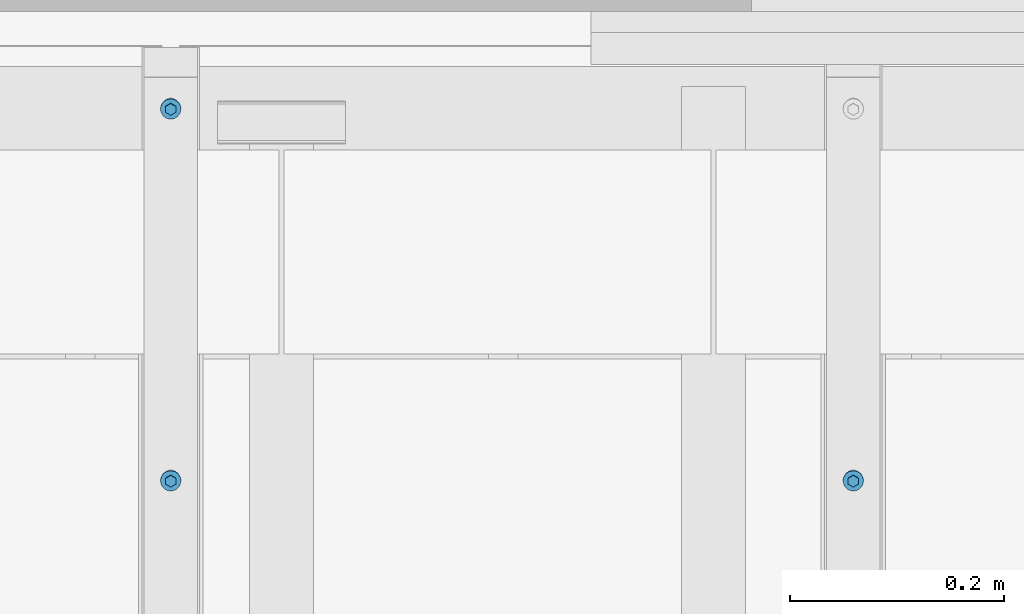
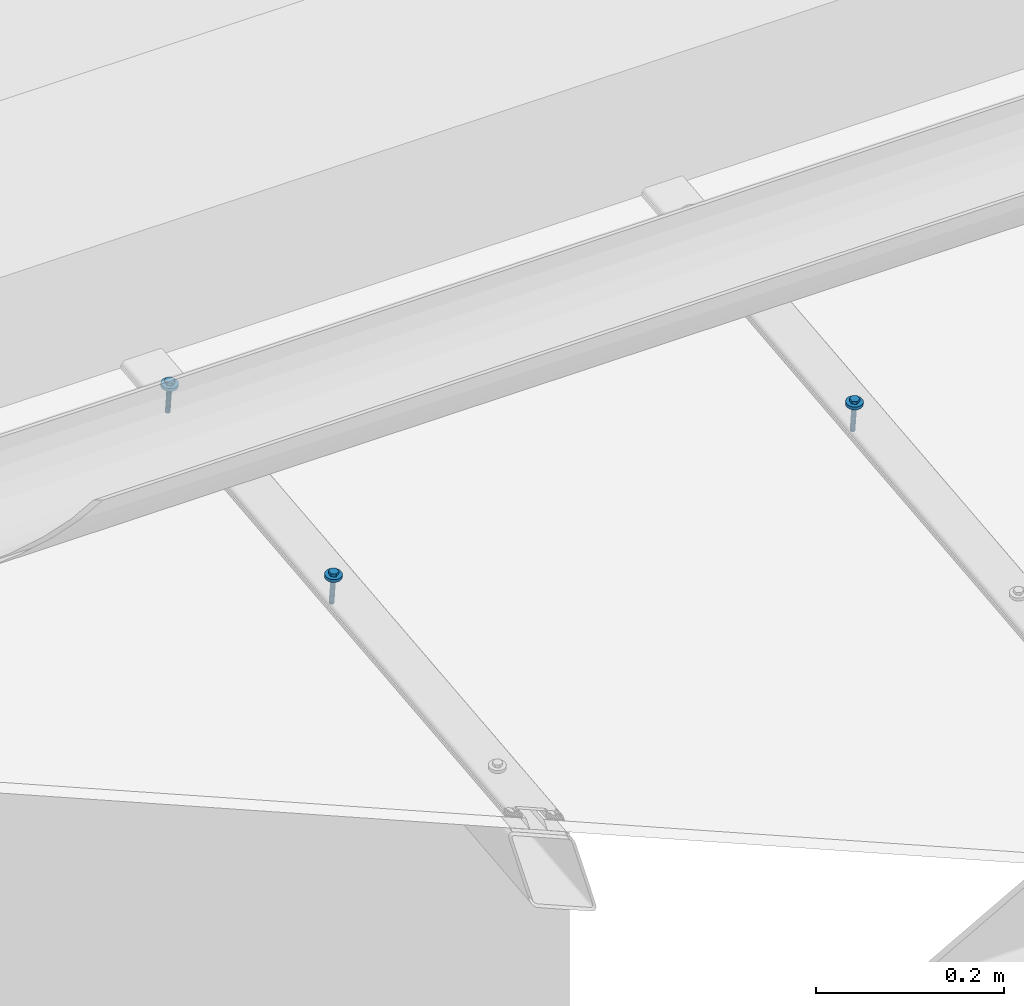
# One storey, part 74 of 162: 3 mechanical fasteners.
"""IFC2X3 building model written with IfcOpenShell, lengths in millimetres."""

import ifcopenshell
import ifcopenshell.guid

model = None  # the IFC model being written
_history = None  # IfcOwnerHistory: only IFC2X3 demands one
_inside = {}  # id of a spatial element -> (the spatial element, [elements in it])
_under = {}  # id of a project, library or spatial element -> (it, [spatial elements below it])
_declared = {}  # id of a project -> (the project, [libraries it declares])
_typed = {}  # id of a type object -> (the type object, [elements of that type])
_made_of = {}  # id of a material, layer set ... -> (it, [elements and type objects made of it])


def new_model(schema):
    """Start an empty IFC model of exactly this schema.

    Asked for "IFC4X3", IfcOpenShell would pick the latest addendum, in which some entities
    have other attributes; the version numbers below select the first issue.
    IFC2X3 requires an IfcOwnerHistory on every rooted entity: one is made here for all.
    """
    global model, _history
    if schema == "IFC4X3":
        model = ifcopenshell.file(schema_version=(4, 3, 0, 0))
    else:
        model = ifcopenshell.file(schema=schema)
    _inside.clear()
    _under.clear()
    _declared.clear()
    _typed.clear()
    _made_of.clear()
    _history = None
    if model.schema == "IFC2X3":
        org = make("IfcOrganization", Name="unknown")
        user = make(
            "IfcPersonAndOrganization",
            ThePerson=make("IfcPerson", FamilyName="unknown"),
            TheOrganization=org,
        )
        app = make(
            "IfcApplication",
            ApplicationDeveloper=org,
            Version="unknown",
            ApplicationFullName="unknown",
            ApplicationIdentifier="unknown",
        )
        _history = make(
            "IfcOwnerHistory",
            OwningUser=user,
            OwningApplication=app,
            ChangeAction="ADDED",
            CreationDate=0,
        )
    return model


def make(cls, **values):
    """One entity of the class cls with the attributes given. An attribute that is None is left unset."""
    return model.create_entity(
        cls, **{name: value for name, value in values.items() if value is not None}
    )


def entity(cls, *values):
    """Any entity or typed value of the class cls, its attributes in the order of the schema. None: left unset."""
    e = model.create_entity(cls)
    for i, value in enumerate(values):
        if value is not None:
            e[i] = value
    return e


def rooted(cls, **values):
    """An entity with a GlobalId (a new one), such as an element, a storey or a relation."""
    return make(cls, GlobalId=ifcopenshell.guid.new(), OwnerHistory=_history, **values)


def si_unit(unit_type, name, prefix=None):
    """IfcSIUnit, for example si_unit("LENGTHUNIT", "METRE", prefix="MILLI")."""
    return make("IfcSIUnit", UnitType=unit_type, Prefix=prefix, Name=name)


def converted_unit(unit_type, name, factor, base, dimensions=None, offset=None):
    """IfcConversionBasedUnit, such as the inch: factor (a typed value) times the base unit."""
    return make(
        "IfcConversionBasedUnit"
        if offset is None
        else "IfcConversionBasedUnitWithOffset",
        ConversionOffset=offset,
        Dimensions=None
        if dimensions is None
        else entity("IfcDimensionalExponents", *dimensions),
        UnitType=unit_type,
        Name=name,
        ConversionFactor=make(
            "IfcMeasureWithUnit", ValueComponent=factor, UnitComponent=base
        ),
    )


def assignment(units):
    """IfcUnitAssignment: the units of a project."""
    return None if units is None else make("IfcUnitAssignment", Units=units)


def point(xyz):
    """IfcCartesianPoint."""
    return None if xyz is None else make("IfcCartesianPoint", Coordinates=xyz)


def direction(xyz):
    """IfcDirection."""
    return None if xyz is None else make("IfcDirection", DirectionRatios=xyz)


def frame(location, z_axis=None, x_axis=None):
    """IfcAxis2Placement3D, a coordinate frame: its origin and axes. An axis left out is left unset."""
    return make(
        "IfcAxis2Placement3D",
        Location=point(location),
        Axis=direction(z_axis),
        RefDirection=direction(x_axis),
    )


def origin_with_axes():
    """The frame at (0, 0, 0) with the z axis (0, 0, 1) and the x axis (1, 0, 0) written out."""
    return frame((0.0, 0.0, 0.0), z_axis=(0.0, 0.0, 1.0), x_axis=(1.0, 0.0, 0.0))


def place(relative_to, where):
    """IfcLocalPlacement: puts the frame where relative to a parent placement (None: the world)."""
    return make(
        "IfcLocalPlacement", PlacementRelTo=relative_to, RelativePlacement=where
    )


def context(
    kind, dimensions, precision=None, world=None, true_north=None, identifier=None
):
    """IfcGeometricRepresentationContext, for example the 3D "Model" context."""
    return make(
        "IfcGeometricRepresentationContext",
        ContextIdentifier=identifier,
        ContextType=kind,
        CoordinateSpaceDimension=dimensions,
        Precision=precision,
        WorldCoordinateSystem=world,
        TrueNorth=true_north,
    )


def project(units=None, contexts=None):
    """IfcProject with its units and contexts."""
    return rooted(
        "IfcProject",
        Name="project",
        RepresentationContexts=contexts,
        UnitsInContext=assignment(units),
    )


def spatial(cls, under=None, at=None, **own):
    """A site, building, storey or space (cls), placed at a placement, below another one or the project."""
    s = rooted(cls, ObjectPlacement=at, **own)
    if under is not None:
        _under.setdefault(under.id(), (under, []))[1].append(s)
    return s


def faces_of(points, faces, orient=None, outer=None):
    """IfcFace entities. A face is a list of loops; a loop is a list of indices into points, from 0.

    orient and outer hold one flag for each loop. By default every Orientation is true, the
    first loop of a face is its IfcFaceOuterBound and the others are IfcFaceBound.
    """
    made = []
    for i, loops in enumerate(faces):
        bounds = []
        for j, loop in enumerate(loops):
            is_outer = j == 0 if outer is None else outer[i][j]
            bounds.append(
                make(
                    "IfcFaceOuterBound" if is_outer else "IfcFaceBound",
                    Bound=make("IfcPolyLoop", Polygon=[points[k] for k in loop]),
                    Orientation=True if orient is None else orient[i][j],
                )
            )
        made.append(make("IfcFace", Bounds=bounds))
    return made


def faceted_brep(points, faces, orient=None, outer=None, voids=None):
    """IfcFacetedBrep: a solid bounded by flat faces; with voids (closed shells), ...WithVoids."""
    shared = [point(p) for p in points]
    hull = make("IfcClosedShell", CfsFaces=faces_of(shared, faces, orient, outer))
    if voids is None:
        return make("IfcFacetedBrep", Outer=hull)
    return make(
        "IfcFacetedBrepWithVoids",
        Outer=hull,
        Voids=[
            make(cls, CfsFaces=faces_of(shared, fs, o, b)) for cls, fs, o, b in voids
        ],
    )


def shape(context_of_items, identifier, shape_type, items):
    """IfcShapeRepresentation: the items that make up one representation, for example the "Body"."""
    return make(
        "IfcShapeRepresentation",
        ContextOfItems=context_of_items,
        RepresentationIdentifier=identifier,
        RepresentationType=shape_type,
        Items=items,
    )


def made_of(thing, what):
    """Note that an element or type object is made of a material, layer set ...; save() writes the relation."""
    if what is not None:
        _made_of.setdefault(what.id(), (what, []))[1].append(thing)
    return thing


def element(
    cls,
    number,
    at=None,
    inside=None,
    cuts=None,
    type_object=None,
    material=None,
    context=None,
    identifier="Body",
    shape_type=None,
    held_by="IfcProductDefinitionShape",
    body=None,
    shapes=None,
    **own,
):
    """One element of the class cls, such as IfcWall. Its Tag is "e" and its number.

    at: its placement. inside: the storey or other place that contains it. cuts: it is an
    opening in that element (IfcRelVoidsElement). A single representation is given by context,
    identifier, shape_type and body (its items); several are given by shapes. held_by: the class
    of the entity that holds the representations. save() writes the other relations.
    """
    e = rooted(cls, Tag="e%d" % number, ObjectPlacement=at, **own)
    if body is not None:
        shapes = [shape(context, identifier, shape_type, body)]
    if shapes is not None:
        e.Representation = make(held_by, Representations=shapes)
    if inside is not None:
        _inside.setdefault(inside.id(), (inside, []))[1].append(e)
    if cuts is not None:
        rooted(
            "IfcRelVoidsElement", RelatingBuildingElement=cuts, RelatedOpeningElement=e
        )
    if type_object is not None:
        _typed.setdefault(type_object.id(), (type_object, []))[1].append(e)
    return made_of(e, material)


def aggregate(whole, parts):
    """IfcRelAggregates: a whole, such as a stair, and the parts it consists of."""
    return rooted("IfcRelAggregates", RelatingObject=whole, RelatedObjects=parts)


def save(model, path):
    """Write the relations noted so far, then the file.

    IfcRelAggregates (storeys below a building ...), IfcRelContainedInSpatialStructure (elements
    in a storey), IfcRelDefinesByType, IfcRelAssociatesMaterial and IfcRelDeclares: one each for
    every whole, place, type object, material and project.
    """
    for whole, parts in _under.values():
        aggregate(whole, parts)
    for where, things in _inside.values():
        rooted(
            "IfcRelContainedInSpatialStructure",
            RelatedElements=things,
            RelatingStructure=where,
        )
    for kind, things in _typed.values():
        rooted("IfcRelDefinesByType", RelatedObjects=things, RelatingType=kind)
    for what, things in _made_of.values():
        rooted("IfcRelAssociatesMaterial", RelatedObjects=things, RelatingMaterial=what)
    for by, libraries in _declared.values():
        rooted("IfcRelDeclares", RelatingContext=by, RelatedDefinitions=libraries)
    model.write(path)


model = new_model("IFC2X3")

# Units and contexts
model_context = context("Model", 3, precision=1e-09, world=origin_with_axes())
ifc_project = project(units=[si_unit("LENGTHUNIT", "METRE", prefix="MILLI"), si_unit("AREAUNIT", "SQUARE_METRE"), si_unit("VOLUMEUNIT", "CUBIC_METRE"), converted_unit("PLANEANGLEUNIT", "DEGREE", entity("IfcPlaneAngleMeasure", 0.01745329), si_unit("PLANEANGLEUNIT", "RADIAN"), dimensions=[0, 0, 0, 0, 0, 0, 0])], contexts=[model_context])

# Site, building, storey
site_placement = place(None, origin_with_axes())
site = spatial("IfcSite", under=ifc_project, at=site_placement, Name="Hermannstra?e 1a, 60318 Frankfurt", CompositionType="ELEMENT")
building_placement = place(site_placement, origin_with_axes())
building = spatial("IfcBuilding", under=site, at=building_placement, Name="Struktur 1", CompositionType="ELEMENT")
storey_placement = place(building_placement, origin_with_axes())
storey = spatial("IfcBuildingStorey", under=building, at=storey_placement, Name="Default Storey", CompositionType="ELEMENT", Elevation=0.0)

# Mechanical fasteners
mechanical_fastener_1_placement = place(None, origin_with_axes())
element("IfcMechanicalFastener", 1, at=mechanical_fastener_1_placement, inside=storey, ObjectType="-", NominalDiameter=6.0, NominalLength=40.0, context=model_context, shape_type="Brep", body=[
    faceted_brep([(3220.309364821, 2296.035603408, 17487.065996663), (3220.309364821, 2296.453717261, 17483.087909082), (3220.491904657, 2294.610512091, 17482.894180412), (3220.491904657, 2294.192398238, 17486.872267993), (3221.032509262, 2292.838140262, 17482.707896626), (3221.032509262, 2292.420026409, 17486.685984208), (3221.910403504, 2291.20471303, 17482.536216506), (3221.910403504, 2290.786599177, 17486.514304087), (3223.0918504, 2289.773002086, 17482.385737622), (3223.0918504, 2289.354888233, 17486.363825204), (3224.531447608, 2288.598027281, 17482.262242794), (3224.531447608, 2288.179913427, 17486.240330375), (3226.173872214, 2287.724942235, 17482.170477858), (3226.173872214, 2287.306828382, 17486.148565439), (3227.956006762, 2287.187299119, 17482.113969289), (3227.956006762, 2286.769185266, 17486.092056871), (3229.809364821, 2287.005759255, 17482.094888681), (3229.809364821, 2286.587645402, 17486.072976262), (3231.66272288, 2287.187299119, 17482.113969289), (3231.66272288, 2286.769185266, 17486.092056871), (3233.444857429, 2287.724942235, 17482.170477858), (3233.444857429, 2287.306828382, 17486.148565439), (3235.087282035, 2288.598027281, 17482.262242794), (3235.087282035, 2288.179913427, 17486.240330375), (3236.526879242, 2289.773002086, 17482.385737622), (3236.526879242, 2289.354888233, 17486.363825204), (3237.708326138, 2291.20471303, 17482.536216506), (3237.708326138, 2290.786599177, 17486.514304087), (3238.58622038, 2292.838140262, 17482.707896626), (3238.58622038, 2292.420026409, 17486.685984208), (3239.126824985, 2294.610512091, 17482.894180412), (3239.126824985, 2294.192398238, 17486.872267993), (3239.309364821, 2296.453717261, 17483.087909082), (3239.309364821, 2296.035603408, 17487.065996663), (3239.126824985, 2298.296922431, 17483.281637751), (3239.126824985, 2297.878808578, 17487.259725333), (3238.58622038, 2300.069294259, 17483.467921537), (3238.58622038, 2299.651180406, 17487.446009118), (3237.708326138, 2301.702721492, 17483.639601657), (3237.708326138, 2301.284607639, 17487.617689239), (3236.526879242, 2303.134432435, 17483.790080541), (3236.526879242, 2302.716318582, 17487.768168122), (3235.087282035, 2304.309407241, 17483.913575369), (3235.087282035, 2303.891293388, 17487.891662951), (3233.444857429, 2305.182492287, 17484.005340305), (3233.444857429, 2304.764378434, 17487.983427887), (3231.66272288, 2305.720135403, 17484.061848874), (3231.66272288, 2305.30202155, 17488.039936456), (3229.809364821, 2305.901675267, 17484.080929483), (3229.809364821, 2305.483561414, 17488.059017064), (3227.956006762, 2305.720135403, 17484.061848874), (3227.956006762, 2305.30202155, 17488.039936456), (3226.173872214, 2305.182492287, 17484.005340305), (3226.173872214, 2304.764378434, 17487.983427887), (3224.531447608, 2304.309407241, 17483.913575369), (3224.531447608, 2303.891293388, 17487.891662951), (3223.0918504, 2303.134432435, 17483.790080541), (3223.0918504, 2302.716318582, 17487.768168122), (3221.910403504, 2301.702721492, 17483.639601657), (3221.910403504, 2301.284607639, 17487.617689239), (3221.032509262, 2300.069294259, 17483.467921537), (3221.032509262, 2299.651180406, 17487.446009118), (3220.491904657, 2298.296922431, 17483.281637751), (3220.491904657, 2297.878808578, 17487.259725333)], [[[0, 1, 2, 3]], [[3, 2, 4, 5]], [[5, 4, 6, 7]], [[7, 6, 8, 9]], [[9, 8, 10, 11]], [[11, 10, 12, 13]], [[13, 12, 14, 15]], [[15, 14, 16, 17]], [[17, 16, 18, 19]], [[19, 18, 20, 21]], [[21, 20, 22, 23]], [[23, 22, 24, 25]], [[25, 24, 26, 27]], [[27, 26, 28, 29]], [[29, 28, 30, 31]], [[31, 30, 32, 33]], [[33, 32, 34, 35]], [[35, 34, 36, 37]], [[37, 36, 38, 39]], [[39, 38, 40, 41]], [[41, 40, 42, 43]], [[43, 42, 44, 45]], [[45, 44, 46, 47]], [[47, 46, 48, 49]], [[49, 48, 50, 51]], [[51, 50, 52, 53]], [[53, 52, 54, 55]], [[55, 54, 56, 57]], [[57, 56, 58, 59]], [[59, 58, 60, 61]], [[61, 60, 62, 63]], [[63, 62, 1, 0]], [[0, 3, 5, 7, 9, 11, 13, 15, 17, 19, 21, 23, 25, 27, 29, 31, 33, 35, 37, 39, 41, 43, 45, 47, 49, 51, 53, 55, 57, 59, 61, 63]], [[1, 62, 60, 58, 56, 54, 52, 50, 48, 46, 44, 42, 40, 38, 36, 34, 32, 30, 28, 26, 24, 22, 20, 18, 16, 14, 12, 10, 8, 6, 4, 2]]]),
    faceted_brep([(3234.594155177, 2293.288236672, 17486.777236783), (3234.594155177, 2292.870122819, 17490.755324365), (3229.809364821, 2290.122756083, 17490.466564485), (3229.809364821, 2290.540869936, 17486.488476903), (3225.024574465, 2292.870122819, 17490.755324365), (3225.024574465, 2293.288236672, 17486.777236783), (3225.024574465, 2298.364856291, 17491.332844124), (3225.024574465, 2298.782970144, 17487.354756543), (3229.809364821, 2301.112223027, 17491.621604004), (3229.809364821, 2301.53033688, 17487.643516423), (3234.594155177, 2298.364856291, 17491.332844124), (3234.594155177, 2298.782970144, 17487.354756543)], [[[0, 1, 2, 3]], [[3, 2, 4, 5]], [[5, 4, 6, 7]], [[7, 6, 8, 9]], [[9, 8, 10, 11]], [[11, 10, 1, 0]], [[4, 2, 1, 10, 8, 6]], [[0, 3, 5, 7, 9, 11]]]),
    faceted_brep([(3226.809364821, 2296.453717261, 17483.087909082), (3226.809364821, 2299.798628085, 17451.26320843), (3227.037726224, 2298.656866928, 17451.143204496), (3227.037726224, 2295.311956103, 17482.967905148), (3227.688044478, 2297.688928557, 17451.041470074), (3227.688044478, 2294.344017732, 17482.866170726), (3228.661314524, 2297.042172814, 17450.973493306), (3228.661314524, 2293.69726199, 17482.798193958), (3229.809364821, 2296.815062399, 17450.94962304), (3229.809364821, 2293.470151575, 17482.774323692), (3230.957415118, 2297.042172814, 17450.973493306), (3230.957415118, 2293.69726199, 17482.798193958), (3231.930685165, 2297.688928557, 17451.041470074), (3231.930685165, 2294.344017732, 17482.866170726), (3232.581003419, 2298.656866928, 17451.143204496), (3232.581003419, 2295.311956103, 17482.967905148), (3232.809364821, 2299.798628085, 17451.26320843), (3232.809364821, 2296.453717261, 17483.087909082), (3232.581003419, 2300.940389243, 17451.383212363), (3232.581003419, 2297.595478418, 17483.207913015), (3231.930685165, 2301.908327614, 17451.484946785), (3231.930685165, 2298.56341679, 17483.309647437), (3230.957415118, 2302.555083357, 17451.552923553), (3230.957415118, 2299.210172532, 17483.377624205), (3229.809364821, 2302.782193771, 17451.57679382), (3229.809364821, 2299.437282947, 17483.401494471), (3228.661314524, 2302.555083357, 17451.552923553), (3228.661314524, 2299.210172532, 17483.377624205), (3227.688044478, 2301.908327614, 17451.484946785), (3227.688044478, 2298.56341679, 17483.309647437), (3227.037726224, 2300.940389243, 17451.383212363), (3227.037726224, 2297.595478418, 17483.207913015)], [[[0, 1, 2, 3]], [[3, 2, 4, 5]], [[5, 4, 6, 7]], [[7, 6, 8, 9]], [[9, 8, 10, 11]], [[11, 10, 12, 13]], [[13, 12, 14, 15]], [[15, 14, 16, 17]], [[17, 16, 18, 19]], [[19, 18, 20, 21]], [[21, 20, 22, 23]], [[23, 22, 24, 25]], [[25, 24, 26, 27]], [[27, 26, 28, 29]], [[29, 28, 30, 31]], [[31, 30, 1, 0]], [[0, 3, 5, 7, 9, 11, 13, 15, 17, 19, 21, 23, 25, 27, 29, 31]], [[1, 30, 28, 26, 24, 22, 20, 18, 16, 14, 12, 10, 8, 6, 4, 2]]]),
    faceted_brep([(3226.809364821, 2299.798628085, 17451.26320843), (3226.809364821, 2300.216741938, 17447.285120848), (3227.037726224, 2299.074980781, 17447.165116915), (3227.037726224, 2298.656866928, 17451.143204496), (3227.688044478, 2298.10704241, 17447.063382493), (3227.688044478, 2297.688928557, 17451.041470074), (3228.661314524, 2297.460286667, 17446.995405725), (3228.661314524, 2297.042172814, 17450.973493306), (3229.809364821, 2297.233176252, 17446.971535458), (3229.809364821, 2296.815062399, 17450.94962304), (3230.957415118, 2297.460286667, 17446.995405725), (3230.957415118, 2297.042172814, 17450.973493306), (3231.930685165, 2298.10704241, 17447.063382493), (3231.930685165, 2297.688928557, 17451.041470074), (3232.581003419, 2299.074980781, 17447.165116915), (3232.581003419, 2298.656866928, 17451.143204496), (3232.809364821, 2300.216741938, 17447.285120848), (3232.809364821, 2299.798628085, 17451.26320843), (3232.581003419, 2301.358503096, 17447.405124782), (3232.581003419, 2300.940389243, 17451.383212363), (3231.930685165, 2302.326441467, 17447.506859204), (3231.930685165, 2301.908327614, 17451.484946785), (3230.957415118, 2302.97319721, 17447.574835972), (3230.957415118, 2302.555083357, 17451.552923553), (3229.809364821, 2303.200307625, 17447.598706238), (3229.809364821, 2302.782193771, 17451.57679382), (3228.661314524, 2302.97319721, 17447.574835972), (3228.661314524, 2302.555083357, 17451.552923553), (3227.688044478, 2302.326441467, 17447.506859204), (3227.688044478, 2301.908327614, 17451.484946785), (3227.037726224, 2301.358503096, 17447.405124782), (3227.037726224, 2300.940389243, 17451.383212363)], [[[0, 1, 2, 3]], [[3, 2, 4, 5]], [[5, 4, 6, 7]], [[7, 6, 8, 9]], [[9, 8, 10, 11]], [[11, 10, 12, 13]], [[13, 12, 14, 15]], [[15, 14, 16, 17]], [[17, 16, 18, 19]], [[19, 18, 20, 21]], [[21, 20, 22, 23]], [[23, 22, 24, 25]], [[25, 24, 26, 27]], [[27, 26, 28, 29]], [[29, 28, 30, 31]], [[31, 30, 1, 0]], [[0, 3, 5, 7, 9, 11, 13, 15, 17, 19, 21, 23, 25, 27, 29, 31]], [[1, 30, 28, 26, 24, 22, 20, 18, 16, 14, 12, 10, 8, 6, 4, 2]]]),
])
mechanical_fastener_2_placement = place(None, origin_with_axes())
element("IfcMechanicalFastener", 2, at=mechanical_fastener_2_placement, inside=storey, ObjectType="-", NominalDiameter=6.0, NominalLength=40.0, context=model_context, shape_type="Brep", body=[
    faceted_brep([(3220.309364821, 2644.118266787, 17523.650958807), (3220.309364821, 2644.53638064, 17519.672871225), (3220.491904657, 2642.69317547, 17519.479142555), (3220.491904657, 2642.275061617, 17523.457230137), (3221.032509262, 2640.920803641, 17519.29285877), (3221.032509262, 2640.502689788, 17523.270946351), (3221.910403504, 2639.287376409, 17519.12117865), (3221.910403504, 2638.869262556, 17523.099266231), (3223.0918504, 2637.855665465, 17518.970699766), (3223.0918504, 2637.437551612, 17522.948787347), (3224.531447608, 2636.680690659, 17518.847204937), (3224.531447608, 2636.262576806, 17522.825292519), (3226.173872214, 2635.807605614, 17518.755440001), (3226.173872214, 2635.389491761, 17522.733527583), (3227.956006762, 2635.269962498, 17518.698931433), (3227.956006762, 2634.851848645, 17522.677019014), (3229.809364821, 2635.088422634, 17518.679850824), (3229.809364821, 2634.670308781, 17522.657938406), (3231.66272288, 2635.269962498, 17518.698931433), (3231.66272288, 2634.851848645, 17522.677019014), (3233.444857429, 2635.807605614, 17518.755440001), (3233.444857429, 2635.389491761, 17522.733527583), (3235.087282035, 2636.680690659, 17518.847204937), (3235.087282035, 2636.262576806, 17522.825292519), (3236.526879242, 2637.855665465, 17518.970699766), (3236.526879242, 2637.437551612, 17522.948787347), (3237.708326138, 2639.287376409, 17519.12117865), (3237.708326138, 2638.869262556, 17523.099266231), (3238.58622038, 2640.920803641, 17519.29285877), (3238.58622038, 2640.502689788, 17523.270946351), (3239.126824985, 2642.69317547, 17519.479142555), (3239.126824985, 2642.275061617, 17523.457230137), (3239.309364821, 2644.53638064, 17519.672871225), (3239.309364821, 2644.118266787, 17523.650958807), (3239.126824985, 2646.37958581, 17519.866599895), (3239.126824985, 2645.961471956, 17523.844687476), (3238.58622038, 2648.151957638, 17520.052883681), (3238.58622038, 2647.733843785, 17524.030971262), (3237.708326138, 2649.785384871, 17520.224563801), (3237.708326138, 2649.367271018, 17524.202651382), (3236.526879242, 2651.217095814, 17520.375042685), (3236.526879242, 2650.798981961, 17524.353130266), (3235.087282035, 2652.39207062, 17520.498537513), (3235.087282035, 2651.973956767, 17524.476625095), (3233.444857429, 2653.265155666, 17520.590302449), (3233.444857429, 2652.847041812, 17524.568390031), (3231.66272288, 2653.802798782, 17520.646811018), (3231.66272288, 2653.384684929, 17524.624898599), (3229.809364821, 2653.984338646, 17520.665891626), (3229.809364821, 2653.566224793, 17524.643979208), (3227.956006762, 2653.802798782, 17520.646811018), (3227.956006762, 2653.384684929, 17524.624898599), (3226.173872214, 2653.265155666, 17520.590302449), (3226.173872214, 2652.847041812, 17524.568390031), (3224.531447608, 2652.39207062, 17520.498537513), (3224.531447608, 2651.973956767, 17524.476625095), (3223.0918504, 2651.217095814, 17520.375042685), (3223.0918504, 2650.798981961, 17524.353130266), (3221.910403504, 2649.785384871, 17520.224563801), (3221.910403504, 2649.367271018, 17524.202651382), (3221.032509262, 2648.151957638, 17520.052883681), (3221.032509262, 2647.733843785, 17524.030971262), (3220.491904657, 2646.37958581, 17519.866599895), (3220.491904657, 2645.961471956, 17523.844687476)], [[[0, 1, 2, 3]], [[3, 2, 4, 5]], [[5, 4, 6, 7]], [[7, 6, 8, 9]], [[9, 8, 10, 11]], [[11, 10, 12, 13]], [[13, 12, 14, 15]], [[15, 14, 16, 17]], [[17, 16, 18, 19]], [[19, 18, 20, 21]], [[21, 20, 22, 23]], [[23, 22, 24, 25]], [[25, 24, 26, 27]], [[27, 26, 28, 29]], [[29, 28, 30, 31]], [[31, 30, 32, 33]], [[33, 32, 34, 35]], [[35, 34, 36, 37]], [[37, 36, 38, 39]], [[39, 38, 40, 41]], [[41, 40, 42, 43]], [[43, 42, 44, 45]], [[45, 44, 46, 47]], [[47, 46, 48, 49]], [[49, 48, 50, 51]], [[51, 50, 52, 53]], [[53, 52, 54, 55]], [[55, 54, 56, 57]], [[57, 56, 58, 59]], [[59, 58, 60, 61]], [[61, 60, 62, 63]], [[63, 62, 1, 0]], [[0, 3, 5, 7, 9, 11, 13, 15, 17, 19, 21, 23, 25, 27, 29, 31, 33, 35, 37, 39, 41, 43, 45, 47, 49, 51, 53, 55, 57, 59, 61, 63]], [[1, 62, 60, 58, 56, 54, 52, 50, 48, 46, 44, 42, 40, 38, 36, 34, 32, 30, 28, 26, 24, 22, 20, 18, 16, 14, 12, 10, 8, 6, 4, 2]]]),
    faceted_brep([(3234.594155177, 2641.370900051, 17523.362198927), (3234.594155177, 2640.952786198, 17527.340286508), (3229.809364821, 2638.205419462, 17527.051526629), (3229.809364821, 2638.623533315, 17523.073439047), (3225.024574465, 2640.952786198, 17527.340286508), (3225.024574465, 2641.370900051, 17523.362198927), (3225.024574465, 2646.44751967, 17527.917806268), (3225.024574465, 2646.865633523, 17523.939718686), (3229.809364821, 2649.194886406, 17528.206566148), (3229.809364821, 2649.613000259, 17524.228478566), (3234.594155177, 2646.44751967, 17527.917806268), (3234.594155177, 2646.865633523, 17523.939718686)], [[[0, 1, 2, 3]], [[3, 2, 4, 5]], [[5, 4, 6, 7]], [[7, 6, 8, 9]], [[9, 8, 10, 11]], [[11, 10, 1, 0]], [[4, 2, 1, 10, 8, 6]], [[0, 3, 5, 7, 9, 11]]]),
    faceted_brep([(3226.809364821, 2644.53638064, 17519.672871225), (3226.809364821, 2647.881291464, 17487.848170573), (3227.037726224, 2646.739530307, 17487.72816664), (3227.037726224, 2643.394619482, 17519.552867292), (3227.688044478, 2645.771591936, 17487.626432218), (3227.688044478, 2642.426681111, 17519.45113287), (3228.661314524, 2645.124836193, 17487.55845545), (3228.661314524, 2641.779925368, 17519.383156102), (3229.809364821, 2644.897725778, 17487.534585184), (3229.809364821, 2641.552814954, 17519.359285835), (3230.957415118, 2645.124836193, 17487.55845545), (3230.957415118, 2641.779925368, 17519.383156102), (3231.930685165, 2645.771591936, 17487.626432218), (3231.930685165, 2642.426681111, 17519.45113287), (3232.581003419, 2646.739530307, 17487.72816664), (3232.581003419, 2643.394619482, 17519.552867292), (3232.809364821, 2647.881291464, 17487.848170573), (3232.809364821, 2644.53638064, 17519.672871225), (3232.581003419, 2649.023052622, 17487.968174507), (3232.581003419, 2645.678141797, 17519.792875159), (3231.930685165, 2649.990990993, 17488.069908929), (3231.930685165, 2646.646080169, 17519.894609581), (3230.957415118, 2650.637746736, 17488.137885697), (3230.957415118, 2647.292835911, 17519.962586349), (3229.809364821, 2650.86485715, 17488.161755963), (3229.809364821, 2647.519946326, 17519.986456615), (3228.661314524, 2650.637746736, 17488.137885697), (3228.661314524, 2647.292835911, 17519.962586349), (3227.688044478, 2649.990990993, 17488.069908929), (3227.688044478, 2646.646080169, 17519.894609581), (3227.037726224, 2649.023052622, 17487.968174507), (3227.037726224, 2645.678141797, 17519.792875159)], [[[0, 1, 2, 3]], [[3, 2, 4, 5]], [[5, 4, 6, 7]], [[7, 6, 8, 9]], [[9, 8, 10, 11]], [[11, 10, 12, 13]], [[13, 12, 14, 15]], [[15, 14, 16, 17]], [[17, 16, 18, 19]], [[19, 18, 20, 21]], [[21, 20, 22, 23]], [[23, 22, 24, 25]], [[25, 24, 26, 27]], [[27, 26, 28, 29]], [[29, 28, 30, 31]], [[31, 30, 1, 0]], [[0, 3, 5, 7, 9, 11, 13, 15, 17, 19, 21, 23, 25, 27, 29, 31]], [[1, 30, 28, 26, 24, 22, 20, 18, 16, 14, 12, 10, 8, 6, 4, 2]]]),
    faceted_brep([(3226.809364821, 2647.881291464, 17487.848170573), (3226.809364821, 2648.299405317, 17483.870082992), (3227.037726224, 2647.15764416, 17483.750079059), (3227.037726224, 2646.739530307, 17487.72816664), (3227.688044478, 2646.189705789, 17483.648344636), (3227.688044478, 2645.771591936, 17487.626432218), (3228.661314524, 2645.542950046, 17483.580367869), (3228.661314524, 2645.124836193, 17487.55845545), (3229.809364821, 2645.315839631, 17483.556497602), (3229.809364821, 2644.897725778, 17487.534585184), (3230.957415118, 2645.542950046, 17483.580367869), (3230.957415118, 2645.124836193, 17487.55845545), (3231.930685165, 2646.189705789, 17483.648344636), (3231.930685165, 2645.771591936, 17487.626432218), (3232.581003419, 2647.15764416, 17483.750079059), (3232.581003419, 2646.739530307, 17487.72816664), (3232.809364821, 2648.299405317, 17483.870082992), (3232.809364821, 2647.881291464, 17487.848170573), (3232.581003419, 2649.441166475, 17483.990086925), (3232.581003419, 2649.023052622, 17487.968174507), (3231.930685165, 2650.409104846, 17484.091821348), (3231.930685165, 2649.990990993, 17488.069908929), (3230.957415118, 2651.055860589, 17484.159798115), (3230.957415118, 2650.637746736, 17488.137885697), (3229.809364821, 2651.282971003, 17484.183668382), (3229.809364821, 2650.86485715, 17488.161755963), (3228.661314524, 2651.055860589, 17484.159798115), (3228.661314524, 2650.637746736, 17488.137885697), (3227.688044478, 2650.409104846, 17484.091821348), (3227.688044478, 2649.990990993, 17488.069908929), (3227.037726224, 2649.441166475, 17483.990086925), (3227.037726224, 2649.023052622, 17487.968174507)], [[[0, 1, 2, 3]], [[3, 2, 4, 5]], [[5, 4, 6, 7]], [[7, 6, 8, 9]], [[9, 8, 10, 11]], [[11, 10, 12, 13]], [[13, 12, 14, 15]], [[15, 14, 16, 17]], [[17, 16, 18, 19]], [[19, 18, 20, 21]], [[21, 20, 22, 23]], [[23, 22, 24, 25]], [[25, 24, 26, 27]], [[27, 26, 28, 29]], [[29, 28, 30, 31]], [[31, 30, 1, 0]], [[0, 3, 5, 7, 9, 11, 13, 15, 17, 19, 21, 23, 25, 27, 29, 31]], [[1, 30, 28, 26, 24, 22, 20, 18, 16, 14, 12, 10, 8, 6, 4, 2]]]),
])
mechanical_fastener_3_placement = place(None, origin_with_axes())
element("IfcMechanicalFastener", 3, at=mechanical_fastener_3_placement, inside=storey, ObjectType="-", NominalDiameter=6.0, NominalLength=40.0, context=model_context, shape_type="Brep", body=[
    faceted_brep([(3859.309364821, 2296.035603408, 17487.065996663), (3859.309364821, 2296.453717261, 17483.087909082), (3859.491904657, 2294.610512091, 17482.894180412), (3859.491904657, 2294.192398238, 17486.872267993), (3860.032509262, 2292.838140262, 17482.707896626), (3860.032509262, 2292.420026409, 17486.685984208), (3860.910403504, 2291.20471303, 17482.536216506), (3860.910403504, 2290.786599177, 17486.514304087), (3862.0918504, 2289.773002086, 17482.385737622), (3862.0918504, 2289.354888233, 17486.363825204), (3863.531447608, 2288.598027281, 17482.262242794), (3863.531447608, 2288.179913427, 17486.240330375), (3865.173872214, 2287.724942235, 17482.170477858), (3865.173872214, 2287.306828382, 17486.148565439), (3866.956006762, 2287.187299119, 17482.113969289), (3866.956006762, 2286.769185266, 17486.092056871), (3868.809364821, 2287.005759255, 17482.094888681), (3868.809364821, 2286.587645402, 17486.072976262), (3870.66272288, 2287.187299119, 17482.113969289), (3870.66272288, 2286.769185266, 17486.092056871), (3872.444857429, 2287.724942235, 17482.170477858), (3872.444857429, 2287.306828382, 17486.148565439), (3874.087282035, 2288.598027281, 17482.262242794), (3874.087282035, 2288.179913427, 17486.240330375), (3875.526879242, 2289.773002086, 17482.385737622), (3875.526879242, 2289.354888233, 17486.363825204), (3876.708326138, 2291.20471303, 17482.536216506), (3876.708326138, 2290.786599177, 17486.514304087), (3877.58622038, 2292.838140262, 17482.707896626), (3877.58622038, 2292.420026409, 17486.685984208), (3878.126824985, 2294.610512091, 17482.894180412), (3878.126824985, 2294.192398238, 17486.872267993), (3878.309364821, 2296.453717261, 17483.087909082), (3878.309364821, 2296.035603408, 17487.065996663), (3878.126824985, 2298.296922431, 17483.281637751), (3878.126824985, 2297.878808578, 17487.259725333), (3877.58622038, 2300.069294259, 17483.467921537), (3877.58622038, 2299.651180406, 17487.446009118), (3876.708326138, 2301.702721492, 17483.639601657), (3876.708326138, 2301.284607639, 17487.617689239), (3875.526879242, 2303.134432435, 17483.790080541), (3875.526879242, 2302.716318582, 17487.768168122), (3874.087282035, 2304.309407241, 17483.913575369), (3874.087282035, 2303.891293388, 17487.891662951), (3872.444857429, 2305.182492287, 17484.005340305), (3872.444857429, 2304.764378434, 17487.983427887), (3870.66272288, 2305.720135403, 17484.061848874), (3870.66272288, 2305.30202155, 17488.039936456), (3868.809364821, 2305.901675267, 17484.080929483), (3868.809364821, 2305.483561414, 17488.059017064), (3866.956006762, 2305.720135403, 17484.061848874), (3866.956006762, 2305.30202155, 17488.039936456), (3865.173872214, 2305.182492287, 17484.005340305), (3865.173872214, 2304.764378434, 17487.983427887), (3863.531447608, 2304.309407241, 17483.913575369), (3863.531447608, 2303.891293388, 17487.891662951), (3862.0918504, 2303.134432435, 17483.790080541), (3862.0918504, 2302.716318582, 17487.768168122), (3860.910403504, 2301.702721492, 17483.639601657), (3860.910403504, 2301.284607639, 17487.617689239), (3860.032509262, 2300.069294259, 17483.467921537), (3860.032509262, 2299.651180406, 17487.446009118), (3859.491904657, 2298.296922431, 17483.281637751), (3859.491904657, 2297.878808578, 17487.259725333)], [[[0, 1, 2, 3]], [[3, 2, 4, 5]], [[5, 4, 6, 7]], [[7, 6, 8, 9]], [[9, 8, 10, 11]], [[11, 10, 12, 13]], [[13, 12, 14, 15]], [[15, 14, 16, 17]], [[17, 16, 18, 19]], [[19, 18, 20, 21]], [[21, 20, 22, 23]], [[23, 22, 24, 25]], [[25, 24, 26, 27]], [[27, 26, 28, 29]], [[29, 28, 30, 31]], [[31, 30, 32, 33]], [[33, 32, 34, 35]], [[35, 34, 36, 37]], [[37, 36, 38, 39]], [[39, 38, 40, 41]], [[41, 40, 42, 43]], [[43, 42, 44, 45]], [[45, 44, 46, 47]], [[47, 46, 48, 49]], [[49, 48, 50, 51]], [[51, 50, 52, 53]], [[53, 52, 54, 55]], [[55, 54, 56, 57]], [[57, 56, 58, 59]], [[59, 58, 60, 61]], [[61, 60, 62, 63]], [[63, 62, 1, 0]], [[0, 3, 5, 7, 9, 11, 13, 15, 17, 19, 21, 23, 25, 27, 29, 31, 33, 35, 37, 39, 41, 43, 45, 47, 49, 51, 53, 55, 57, 59, 61, 63]], [[1, 62, 60, 58, 56, 54, 52, 50, 48, 46, 44, 42, 40, 38, 36, 34, 32, 30, 28, 26, 24, 22, 20, 18, 16, 14, 12, 10, 8, 6, 4, 2]]]),
    faceted_brep([(3873.594155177, 2293.288236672, 17486.777236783), (3873.594155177, 2292.870122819, 17490.755324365), (3868.809364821, 2290.122756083, 17490.466564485), (3868.809364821, 2290.540869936, 17486.488476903), (3864.024574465, 2292.870122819, 17490.755324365), (3864.024574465, 2293.288236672, 17486.777236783), (3864.024574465, 2298.364856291, 17491.332844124), (3864.024574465, 2298.782970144, 17487.354756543), (3868.809364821, 2301.112223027, 17491.621604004), (3868.809364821, 2301.53033688, 17487.643516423), (3873.594155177, 2298.364856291, 17491.332844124), (3873.594155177, 2298.782970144, 17487.354756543)], [[[0, 1, 2, 3]], [[3, 2, 4, 5]], [[5, 4, 6, 7]], [[7, 6, 8, 9]], [[9, 8, 10, 11]], [[11, 10, 1, 0]], [[4, 2, 1, 10, 8, 6]], [[0, 3, 5, 7, 9, 11]]]),
    faceted_brep([(3865.809364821, 2296.453717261, 17483.087909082), (3865.809364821, 2299.798628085, 17451.26320843), (3866.037726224, 2298.656866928, 17451.143204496), (3866.037726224, 2295.311956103, 17482.967905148), (3866.688044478, 2297.688928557, 17451.041470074), (3866.688044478, 2294.344017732, 17482.866170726), (3867.661314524, 2297.042172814, 17450.973493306), (3867.661314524, 2293.69726199, 17482.798193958), (3868.809364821, 2296.815062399, 17450.94962304), (3868.809364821, 2293.470151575, 17482.774323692), (3869.957415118, 2297.042172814, 17450.973493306), (3869.957415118, 2293.69726199, 17482.798193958), (3870.930685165, 2297.688928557, 17451.041470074), (3870.930685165, 2294.344017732, 17482.866170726), (3871.581003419, 2298.656866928, 17451.143204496), (3871.581003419, 2295.311956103, 17482.967905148), (3871.809364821, 2299.798628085, 17451.26320843), (3871.809364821, 2296.453717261, 17483.087909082), (3871.581003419, 2300.940389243, 17451.383212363), (3871.581003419, 2297.595478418, 17483.207913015), (3870.930685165, 2301.908327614, 17451.484946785), (3870.930685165, 2298.56341679, 17483.309647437), (3869.957415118, 2302.555083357, 17451.552923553), (3869.957415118, 2299.210172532, 17483.377624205), (3868.809364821, 2302.782193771, 17451.57679382), (3868.809364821, 2299.437282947, 17483.401494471), (3867.661314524, 2302.555083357, 17451.552923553), (3867.661314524, 2299.210172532, 17483.377624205), (3866.688044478, 2301.908327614, 17451.484946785), (3866.688044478, 2298.56341679, 17483.309647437), (3866.037726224, 2300.940389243, 17451.383212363), (3866.037726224, 2297.595478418, 17483.207913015)], [[[0, 1, 2, 3]], [[3, 2, 4, 5]], [[5, 4, 6, 7]], [[7, 6, 8, 9]], [[9, 8, 10, 11]], [[11, 10, 12, 13]], [[13, 12, 14, 15]], [[15, 14, 16, 17]], [[17, 16, 18, 19]], [[19, 18, 20, 21]], [[21, 20, 22, 23]], [[23, 22, 24, 25]], [[25, 24, 26, 27]], [[27, 26, 28, 29]], [[29, 28, 30, 31]], [[31, 30, 1, 0]], [[0, 3, 5, 7, 9, 11, 13, 15, 17, 19, 21, 23, 25, 27, 29, 31]], [[1, 30, 28, 26, 24, 22, 20, 18, 16, 14, 12, 10, 8, 6, 4, 2]]]),
    faceted_brep([(3865.809364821, 2299.798628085, 17451.26320843), (3865.809364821, 2300.216741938, 17447.285120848), (3866.037726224, 2299.074980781, 17447.165116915), (3866.037726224, 2298.656866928, 17451.143204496), (3866.688044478, 2298.10704241, 17447.063382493), (3866.688044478, 2297.688928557, 17451.041470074), (3867.661314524, 2297.460286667, 17446.995405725), (3867.661314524, 2297.042172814, 17450.973493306), (3868.809364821, 2297.233176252, 17446.971535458), (3868.809364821, 2296.815062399, 17450.94962304), (3869.957415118, 2297.460286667, 17446.995405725), (3869.957415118, 2297.042172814, 17450.973493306), (3870.930685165, 2298.10704241, 17447.063382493), (3870.930685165, 2297.688928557, 17451.041470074), (3871.581003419, 2299.074980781, 17447.165116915), (3871.581003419, 2298.656866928, 17451.143204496), (3871.809364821, 2300.216741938, 17447.285120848), (3871.809364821, 2299.798628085, 17451.26320843), (3871.581003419, 2301.358503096, 17447.405124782), (3871.581003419, 2300.940389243, 17451.383212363), (3870.930685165, 2302.326441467, 17447.506859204), (3870.930685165, 2301.908327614, 17451.484946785), (3869.957415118, 2302.97319721, 17447.574835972), (3869.957415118, 2302.555083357, 17451.552923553), (3868.809364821, 2303.200307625, 17447.598706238), (3868.809364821, 2302.782193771, 17451.57679382), (3867.661314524, 2302.97319721, 17447.574835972), (3867.661314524, 2302.555083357, 17451.552923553), (3866.688044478, 2302.326441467, 17447.506859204), (3866.688044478, 2301.908327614, 17451.484946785), (3866.037726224, 2301.358503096, 17447.405124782), (3866.037726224, 2300.940389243, 17451.383212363)], [[[0, 1, 2, 3]], [[3, 2, 4, 5]], [[5, 4, 6, 7]], [[7, 6, 8, 9]], [[9, 8, 10, 11]], [[11, 10, 12, 13]], [[13, 12, 14, 15]], [[15, 14, 16, 17]], [[17, 16, 18, 19]], [[19, 18, 20, 21]], [[21, 20, 22, 23]], [[23, 22, 24, 25]], [[25, 24, 26, 27]], [[27, 26, 28, 29]], [[29, 28, 30, 31]], [[31, 30, 1, 0]], [[0, 3, 5, 7, 9, 11, 13, 15, 17, 19, 21, 23, 25, 27, 29, 31]], [[1, 30, 28, 26, 24, 22, 20, 18, 16, 14, 12, 10, 8, 6, 4, 2]]]),
])

save(model, "model.ifc")
